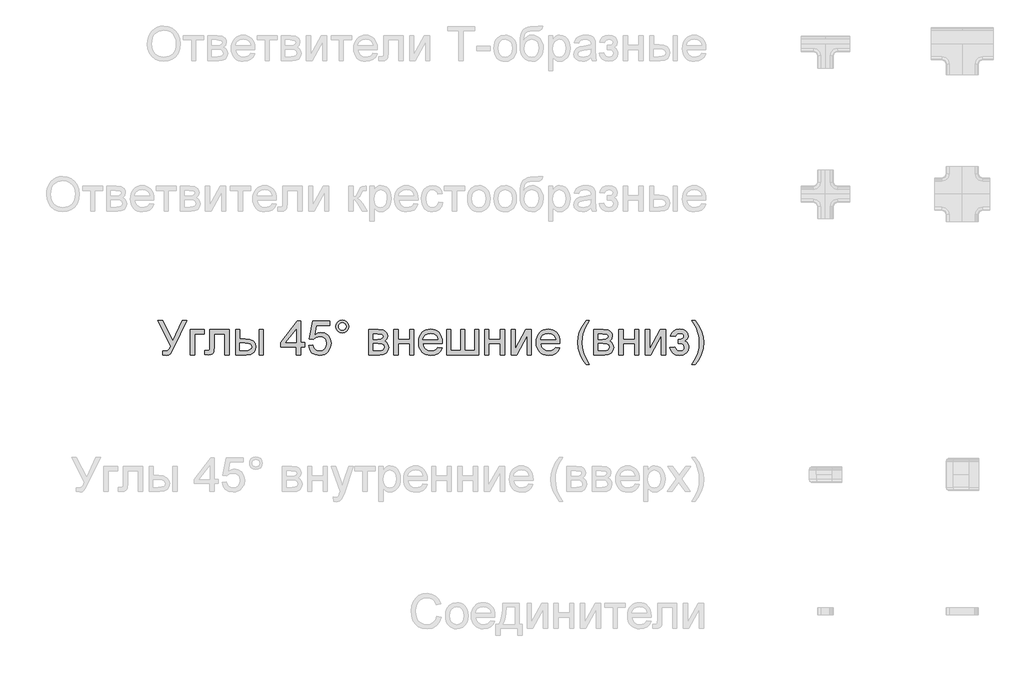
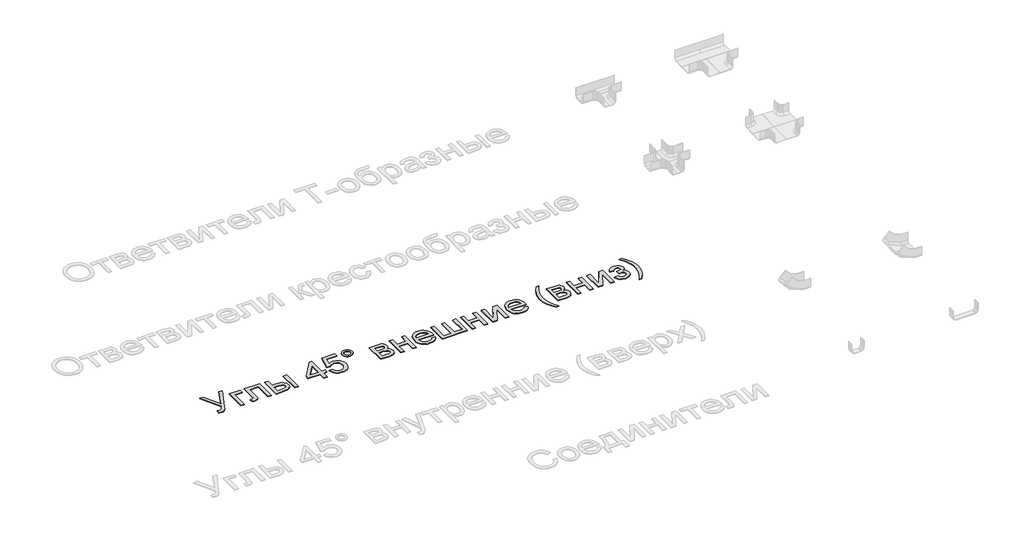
# One storey, part 4 of 11: 1 proxy.
"""IFC4 building model written with IfcOpenShell, lengths in millimetres."""

import ifcopenshell
import ifcopenshell.guid

model = None  # the IFC model being written
_history = None  # IfcOwnerHistory: only IFC2X3 demands one
_inside = {}  # id of a spatial element -> (the spatial element, [elements in it])
_under = {}  # id of a project, library or spatial element -> (it, [spatial elements below it])
_declared = {}  # id of a project -> (the project, [libraries it declares])
_typed = {}  # id of a type object -> (the type object, [elements of that type])
_made_of = {}  # id of a material, layer set ... -> (it, [elements and type objects made of it])


def new_model(schema):
    """Start an empty IFC model of exactly this schema.

    Asked for "IFC4X3", IfcOpenShell would pick the latest addendum, in which some entities
    have other attributes; the version numbers below select the first issue.
    IFC2X3 requires an IfcOwnerHistory on every rooted entity: one is made here for all.
    """
    global model, _history
    if schema == "IFC4X3":
        model = ifcopenshell.file(schema_version=(4, 3, 0, 0))
    else:
        model = ifcopenshell.file(schema=schema)
    _inside.clear()
    _under.clear()
    _declared.clear()
    _typed.clear()
    _made_of.clear()
    _history = None
    if model.schema == "IFC2X3":
        org = make("IfcOrganization", Name="unknown")
        user = make(
            "IfcPersonAndOrganization",
            ThePerson=make("IfcPerson", FamilyName="unknown"),
            TheOrganization=org,
        )
        app = make(
            "IfcApplication",
            ApplicationDeveloper=org,
            Version="unknown",
            ApplicationFullName="unknown",
            ApplicationIdentifier="unknown",
        )
        _history = make(
            "IfcOwnerHistory",
            OwningUser=user,
            OwningApplication=app,
            ChangeAction="ADDED",
            CreationDate=0,
        )
    return model


def make(cls, **values):
    """One entity of the class cls with the attributes given. An attribute that is None is left unset."""
    return model.create_entity(
        cls, **{name: value for name, value in values.items() if value is not None}
    )


def rooted(cls, **values):
    """An entity with a GlobalId (a new one), such as an element, a storey or a relation."""
    return make(cls, GlobalId=ifcopenshell.guid.new(), OwnerHistory=_history, **values)


def si_unit(unit_type, name, prefix=None):
    """IfcSIUnit, for example si_unit("LENGTHUNIT", "METRE", prefix="MILLI")."""
    return make("IfcSIUnit", UnitType=unit_type, Prefix=prefix, Name=name)


def assignment(units):
    """IfcUnitAssignment: the units of a project."""
    return None if units is None else make("IfcUnitAssignment", Units=units)


def point(xyz):
    """IfcCartesianPoint."""
    return None if xyz is None else make("IfcCartesianPoint", Coordinates=xyz)


def direction(xyz):
    """IfcDirection."""
    return None if xyz is None else make("IfcDirection", DirectionRatios=xyz)


def frame(location, z_axis=None, x_axis=None):
    """IfcAxis2Placement3D, a coordinate frame: its origin and axes. An axis left out is left unset."""
    return make(
        "IfcAxis2Placement3D",
        Location=point(location),
        Axis=direction(z_axis),
        RefDirection=direction(x_axis),
    )


def origin():
    """The frame at (0, 0, 0) with its axes left unset."""
    return frame((0.0, 0.0, 0.0))


def origin_with_axes():
    """The frame at (0, 0, 0) with the z axis (0, 0, 1) and the x axis (1, 0, 0) written out."""
    return frame((0.0, 0.0, 0.0), z_axis=(0.0, 0.0, 1.0), x_axis=(1.0, 0.0, 0.0))


def place(relative_to, where):
    """IfcLocalPlacement: puts the frame where relative to a parent placement (None: the world)."""
    return make(
        "IfcLocalPlacement", PlacementRelTo=relative_to, RelativePlacement=where
    )


def context(
    kind, dimensions, precision=None, world=None, true_north=None, identifier=None
):
    """IfcGeometricRepresentationContext, for example the 3D "Model" context."""
    return make(
        "IfcGeometricRepresentationContext",
        ContextIdentifier=identifier,
        ContextType=kind,
        CoordinateSpaceDimension=dimensions,
        Precision=precision,
        WorldCoordinateSystem=world,
        TrueNorth=true_north,
    )


def project(units=None, contexts=None):
    """IfcProject with its units and contexts."""
    return rooted(
        "IfcProject",
        Name="project",
        RepresentationContexts=contexts,
        UnitsInContext=assignment(units),
    )


def spatial(cls, under=None, at=None, **own):
    """A site, building, storey or space (cls), placed at a placement, below another one or the project."""
    s = rooted(cls, ObjectPlacement=at, **own)
    if under is not None:
        _under.setdefault(under.id(), (under, []))[1].append(s)
    return s


def polyline(points):
    """IfcPolyline through the points."""
    return make("IfcPolyline", Points=[point(p) for p in points])


def outline(outer, holes=None, kind="AREA"):
    """IfcArbitraryClosedProfileDef: a profile drawn as a closed curve; with holes, ...WithVoids."""
    if holes is None:
        return make("IfcArbitraryClosedProfileDef", ProfileType=kind, OuterCurve=outer)
    return make(
        "IfcArbitraryProfileDefWithVoids",
        ProfileType=kind,
        OuterCurve=outer,
        InnerCurves=holes,
    )


def extrude(swept, where, along, depth):
    """IfcExtrudedAreaSolid: the profile swept, set in the frame where, extruded along a direction by depth."""
    return make(
        "IfcExtrudedAreaSolid",
        SweptArea=swept,
        Position=where,
        ExtrudedDirection=direction(along),
        Depth=depth,
    )


def shape(context_of_items, identifier, shape_type, items):
    """IfcShapeRepresentation: the items that make up one representation, for example the "Body"."""
    return make(
        "IfcShapeRepresentation",
        ContextOfItems=context_of_items,
        RepresentationIdentifier=identifier,
        RepresentationType=shape_type,
        Items=items,
    )


def made_of(thing, what):
    """Note that an element or type object is made of a material, layer set ...; save() writes the relation."""
    if what is not None:
        _made_of.setdefault(what.id(), (what, []))[1].append(thing)
    return thing


def element(
    cls,
    number,
    at=None,
    inside=None,
    cuts=None,
    type_object=None,
    material=None,
    context=None,
    identifier="Body",
    shape_type=None,
    held_by="IfcProductDefinitionShape",
    body=None,
    shapes=None,
    **own,
):
    """One element of the class cls, such as IfcWall. Its Tag is "e" and its number.

    at: its placement. inside: the storey or other place that contains it. cuts: it is an
    opening in that element (IfcRelVoidsElement). A single representation is given by context,
    identifier, shape_type and body (its items); several are given by shapes. held_by: the class
    of the entity that holds the representations. save() writes the other relations.
    """
    e = rooted(cls, Tag="e%d" % number, ObjectPlacement=at, **own)
    if body is not None:
        shapes = [shape(context, identifier, shape_type, body)]
    if shapes is not None:
        e.Representation = make(held_by, Representations=shapes)
    if inside is not None:
        _inside.setdefault(inside.id(), (inside, []))[1].append(e)
    if cuts is not None:
        rooted(
            "IfcRelVoidsElement", RelatingBuildingElement=cuts, RelatedOpeningElement=e
        )
    if type_object is not None:
        _typed.setdefault(type_object.id(), (type_object, []))[1].append(e)
    return made_of(e, material)


def aggregate(whole, parts):
    """IfcRelAggregates: a whole, such as a stair, and the parts it consists of."""
    return rooted("IfcRelAggregates", RelatingObject=whole, RelatedObjects=parts)


def save(model, path):
    """Write the relations noted so far, then the file.

    IfcRelAggregates (storeys below a building ...), IfcRelContainedInSpatialStructure (elements
    in a storey), IfcRelDefinesByType, IfcRelAssociatesMaterial and IfcRelDeclares: one each for
    every whole, place, type object, material and project.
    """
    for whole, parts in _under.values():
        aggregate(whole, parts)
    for where, things in _inside.values():
        rooted(
            "IfcRelContainedInSpatialStructure",
            RelatedElements=things,
            RelatingStructure=where,
        )
    for kind, things in _typed.values():
        rooted("IfcRelDefinesByType", RelatedObjects=things, RelatingType=kind)
    for what, things in _made_of.values():
        rooted("IfcRelAssociatesMaterial", RelatedObjects=things, RelatingMaterial=what)
    for by, libraries in _declared.values():
        rooted("IfcRelDeclares", RelatingContext=by, RelatedDefinitions=libraries)
    model.write(path)


model = new_model("IFC4")

# Units and contexts
model_context = context("Model", 3, world=origin())
ifc_project = project(units=[si_unit("LENGTHUNIT", "METRE", prefix="MILLI")], contexts=[model_context])

# Site, building, storey
site = spatial("IfcSite", under=ifc_project)
building = spatial("IfcBuilding", under=site)
storey = spatial("IfcBuildingStorey", under=building, Name="Этаж 01", Elevation=0.0)

# Proxy
placement = place(None, origin())
element("IfcBuildingElementProxy", 1, Name="АБН_Маленькая надпись", ObjectType="АБН_Маленькая надпись", at=placement, inside=storey, context=model_context, shape_type="SweptSolid", body=[
    extrude(outline(polyline([(-18595.1476352, 3782.6703326), (-18560.3827867, 3782.6703326), (-18485.273546, 3633.9233793), (-18417.7058862, 3782.6703326), (-18383.247606, 3782.6703326), (-18478.5903564, 3587.0184249), (-18492.9837395, 3556.6375034), (-18504.5260371, 3538.9485108), (-18516.8347555, 3530.4412397), (-18533.527401, 3527.6054827), (-18561.793001, 3531.5295573), (-18561.793001, 3558.9980796), (-18537.0835937, 3558.9980796), (-18527.196765, 3560.7455191), (-18518.7508076, 3565.9878375), (-18510.6420753, 3577.4381646), (-18501.7669221, 3597.8096301), (-18595.1476352, 3782.6703326)])), origin_with_axes(), (0.0, 0.0, 1.0), 5.0),
    extrude(outline(polyline([(-18357.741121, 3715.9610642), (-18255.715181, 3715.9610642), (-18255.715181, 3684.5684673), (-18326.3485241, 3684.5684673), (-18326.3485241, 3531.5295573), (-18357.741121, 3531.5295573), (-18357.741121, 3715.9610642)])), origin_with_axes(), (0.0, 0.0, 1.0), 5.0),
    extrude(outline(polyline([(-18216.4744349, 3715.9610642), (-18075.2077487, 3715.9610642), (-18075.2077487, 3531.7134983), (-18106.6003456, 3531.7134983), (-18106.6003456, 3684.5684673), (-18185.0818379, 3684.5684673), (-18185.0818379, 3596.5833568), (-18187.1971594, 3555.99371), (-18191.1595551, 3546.8043243), (-18198.8160991, 3538.8565403), (-18210.4350388, 3533.361303), (-18226.2846214, 3531.5295573), (-18251.7911064, 3533.1237126), (-18251.7911064, 3562.9221542), (-18237.7502769, 3562.9221542), (-18223.5561633, 3564.8535347), (-18217.8846492, 3570.9849013), (-18216.4744349, 3598.3614531), (-18216.4744349, 3715.9610642)])), origin_with_axes(), (0.0, 0.0, 1.0), 5.0),
    extrude(outline(polyline([(-17855.4595703, 3715.9610642), (-17824.0669733, 3715.9610642), (-17824.0669733, 3531.5295573), (-17855.4595703, 3531.5295573), (-17855.4595703, 3715.9610642)])), origin_with_axes(), (0.0, 0.0, 1.0), 5.0),
    extrude(outline(polyline([(-18028.1188533, 3715.9610642), (-17996.7262564, 3715.9610642), (-17996.7262564, 3649.2517957), (-17957.9147059, 3649.2517957), (-17924.3684665, 3645.3200569), (-17899.5134392, 3633.5248404), (-17884.1313733, 3614.8165081), (-17879.004018, 3590.1454218), (-17883.3036388, 3567.6816275), (-17896.2025012, 3548.7280405), (-17918.5436682, 3535.8291781), (-17951.1702027, 3531.5295573), (-18028.1188533, 3531.5295573), (-18028.1188533, 3715.9610642)]), holes=[polyline([(-17996.7262564, 3562.9221542), (-17964.4752682, 3562.9221542), (-17939.4746209, 3564.569959), (-17922.8432891, 3569.5133733), (-17913.5082834, 3577.9516665), (-17910.3966149, 3590.0841082), (-17912.7035416, 3600.3388188), (-17919.6243216, 3609.3979129), (-17934.4239077, 3615.7438773), (-17960.3672526, 3617.8591988), (-17996.7262564, 3617.8591988), (-17996.7262564, 3562.9221542)])]), origin_with_axes(), (0.0, 0.0, 1.0), 5.0),
    extrude(outline(polyline([(-17584.6984218, 3531.5295573), (-17584.6984218, 3590.3906765), (-17698.4965857, 3590.3906765), (-17698.4965857, 3621.7832734), (-17576.8502726, 3778.746258), (-17553.3058249, 3778.746258), (-17553.3058249, 3621.7832734), (-17521.913228, 3621.7832734), (-17521.913228, 3590.3906765), (-17553.3058249, 3590.3906765), (-17553.3058249, 3531.5295573), (-17584.6984218, 3531.5295573)]), holes=[polyline([(-17584.6984218, 3621.7832734), (-17584.6984218, 3718.7814928), (-17659.8689762, 3621.7832734), (-17584.6984218, 3621.7832734)])]), origin_with_axes(), (0.0, 0.0, 1.0), 5.0),
    extrude(outline(polyline([(-17494.4447057, 3598.2388257), (-17463.0521087, 3602.1629003), (-17457.2886242, 3583.3166123), (-17447.233183, 3569.8199416), (-17432.9317704, 3561.7035451), (-17414.4303717, 3558.9980796), (-17391.9282563, 3562.7612058), (-17375.0669982, 3574.0505846), (-17364.5363761, 3591.5633004), (-17361.0261688, 3613.9964379), (-17364.3141141, 3635.1189958), (-17374.1779501, 3651.2751467), (-17390.6943188, 3661.5298573), (-17413.9398624, 3664.9480942), (-17429.1686441, 3663.5838651), (-17441.5003552, 3659.4911779), (-17459.1280341, 3645.3277211), (-17490.5206311, 3649.2517957), (-17463.0521087, 3778.746258), (-17341.4057957, 3778.746258), (-17341.4057957, 3747.3536611), (-17437.6682511, 3747.3536611), (-17451.0959439, 3678.191846), (-17428.6704706, 3691.8034798), (-17405.1720082, 3696.3406911), (-17375.8410833, 3690.7151623), (-17351.4918937, 3673.8385757), (-17335.0981523, 3648.1174929), (-17329.6335718, 3615.9584752), (-17334.5539935, 3584.5658782), (-17349.3152586, 3557.7104926), (-17362.359741, 3544.5395508), (-17377.5808585, 3535.1317351), (-17394.9786112, 3529.4870458), (-17414.552999, 3527.6054827), (-17445.3861088, 3532.4415981), (-17469.9498962, 3546.9499442), (-17486.7881616, 3569.4443954), (-17494.4447057, 3598.2388257)])), origin_with_axes(), (0.0, 0.0, 1.0), 5.0),
    extrude(outline(polyline([(-17294.3169003, 3739.5668255), (-17290.8603424, 3757.6696854), (-17280.4906686, 3772.8601461), (-17265.2772153, 3783.160842), (-17247.2893186, 3786.5944073), (-17229.0944882, 3783.160842), (-17213.8733707, 3772.8601461), (-17203.5726748, 3757.6696854), (-17200.1391095, 3739.5668255), (-17203.5956674, 3721.4869583), (-17213.9653412, 3706.2428482), (-17229.2094514, 3695.8731744), (-17247.2893186, 3692.4166165), (-17265.2772153, 3695.8501818), (-17280.4906686, 3706.1508777), (-17290.8603424, 3721.3719952), (-17294.3169003, 3739.5668255)]), holes=[polyline([(-17274.6965272, 3739.5055119), (-17272.6808404, 3728.9442329), (-17266.6337802, 3720.0690798), (-17257.7356344, 3714.0450121), (-17247.1666912, 3712.0369896), (-17236.6897186, 3714.0450121), (-17227.8222297, 3720.0690798), (-17221.7751694, 3728.9442329), (-17219.7594826, 3739.5055119), (-17221.7751694, 3750.0667908), (-17227.8222297, 3758.941944), (-17236.6897186, 3764.9660116), (-17247.1666912, 3766.9740342), (-17257.7356344, 3764.9660116), (-17266.6337802, 3758.941944), (-17272.6808404, 3750.0667908), (-17274.6965272, 3739.5055119)])]), origin_with_axes(), (0.0, 0.0, 1.0), 5.0),
    extrude(outline(polyline([(-17054.9483488, 3715.9610642), (-16985.7865337, 3715.9610642), (-16947.8640313, 3711.7610781), (-16936.3217337, 3705.8136525), (-16926.5268756, 3696.3713479), (-16919.8360218, 3684.0702937), (-16917.6057372, 3669.5466191), (-16923.0013398, 3647.7496109), (-16939.2494613, 3632.2065966), (-16927.6305216, 3625.6843554), (-16918.1575602, 3615.1920543), (-16911.8575811, 3601.5574279), (-16909.757588, 3585.6082106), (-16915.0765485, 3561.6805525), (-16927.7224921, 3544.8346228), (-16947.741404, 3534.8558236), (-16975.1792695, 3531.5295573), (-17054.9483488, 3531.5295573), (-17054.9483488, 3715.9610642)]), holes=[polyline([(-17023.5557518, 3645.3277211), (-16992.5310369, 3645.3277211), (-16966.9325814, 3646.9218764), (-16954.4859072, 3653.2984977), (-16948.9983342, 3664.8254669), (-16951.4048955, 3674.1911293), (-16958.6245797, 3680.215197), (-16991.5500183, 3684.5684673), (-17023.5557518, 3684.5684673), (-17023.5557518, 3645.3277211)]), polyline([(-17023.5557518, 3562.9221542), (-16985.0507697, 3562.9221542), (-16964.0661675, 3564.3400327), (-16950.8990578, 3568.5936683), (-16943.8326578, 3576.3268544), (-16941.1501849, 3588.1833845), (-16946.5151307, 3603.2972032), (-16960.4946465, 3612.0957142), (-16988.116453, 3613.9351242), (-17023.5557518, 3613.9351242), (-17023.5557518, 3562.9221542)])]), origin_with_axes(), (0.0, 0.0, 1.0), 5.0),
    extrude(outline(polyline([(-16870.5168418, 3715.9610642), (-16839.1242449, 3715.9610642), (-16839.1242449, 3645.3277211), (-16756.718678, 3645.3277211), (-16756.718678, 3715.9610642), (-16725.3260811, 3715.9610642), (-16725.3260811, 3531.5295573), (-16756.718678, 3531.5295573), (-16756.718678, 3613.9351242), (-16839.1242449, 3613.9351242), (-16839.1242449, 3531.5295573), (-16870.5168418, 3531.5295573), (-16870.5168418, 3715.9610642)])), origin_with_axes(), (0.0, 0.0, 1.0), 5.0),
    extrude(outline(polyline([(-16549.1106054, 3586.4666019), (-16518.3311451, 3582.5425273), (-16529.4212544, 3559.3506332), (-16547.1179113, 3542.0141941), (-16571.0225767, 3531.2076605), (-16600.7367121, 3527.6054827), (-16620.2152973, 3529.1594009), (-16637.5708968, 3533.8211555), (-16652.8035107, 3541.5907466), (-16665.9131389, 3552.4681742), (-16676.4552573, 3566.1507019), (-16683.9853419, 3582.3355937), (-16688.5033926, 3601.0228494), (-16690.0094095, 3622.2124691), (-16688.4880642, 3644.1206083), (-16683.9240282, 3663.430581), (-16676.3173015, 3680.142387), (-16665.6678842, 3694.2560265), (-16652.592745, 3705.4687631), (-16637.7088526, 3713.4778607), (-16621.016207, 3718.2833193), (-16602.5148084, 3719.8851388), (-16584.6093019, 3718.2871514), (-16568.4167459, 3713.4931891), (-16553.9371405, 3705.5032521), (-16541.1704857, 3694.3173401), (-16530.7490785, 3680.2343575), (-16523.3052163, 3663.5532083), (-16518.8388989, 3644.2738925), (-16517.3501265, 3622.3964101), (-16517.5340675, 3613.9351242), (-16658.6168126, 3613.9351242), (-16653.182889, 3590.4366618), (-16640.559938, 3573.1615364), (-16622.3421151, 3562.5389438), (-16600.1235754, 3558.9980796), (-16583.4156014, 3560.6382201), (-16569.3441151, 3565.5586418), (-16557.9091164, 3574.065913), (-16549.1106054, 3586.4666019)]), holes=[polyline([(-16658.6168126, 3645.3277211), (-16548.7427234, 3645.3277211), (-16552.9886948, 3661.9130677), (-16561.3120249, 3673.7772621), (-16579.6141542, 3684.8137219), (-16602.6374357, 3688.4925419), (-16623.7983146, 3685.5571501), (-16641.295702, 3676.7509749), (-16653.4588005, 3663.0243779), (-16658.6168126, 3645.3277211)])]), origin_with_axes(), (0.0, 0.0, 1.0), 5.0),
    extrude(outline(polyline([(-16485.9575296, 3715.9610642), (-16454.5649326, 3715.9610642), (-16454.5649326, 3562.9221542), (-16383.9315896, 3562.9221542), (-16383.9315896, 3715.9610642), (-16352.5389926, 3715.9610642), (-16352.5389926, 3562.9221542), (-16281.9056496, 3562.9221542), (-16281.9056496, 3715.9610642), (-16250.5130526, 3715.9610642), (-16250.5130526, 3531.5295573), (-16485.9575296, 3531.5295573), (-16485.9575296, 3715.9610642)])), origin_with_axes(), (0.0, 0.0, 1.0), 5.0),
    extrude(outline(polyline([(-16207.3482319, 3715.9610642), (-16175.955635, 3715.9610642), (-16175.955635, 3645.3277211), (-16093.550068, 3645.3277211), (-16093.550068, 3715.9610642), (-16062.1574711, 3715.9610642), (-16062.1574711, 3531.5295573), (-16093.550068, 3531.5295573), (-16093.550068, 3613.9351242), (-16175.955635, 3613.9351242), (-16175.955635, 3531.5295573), (-16207.3482319, 3531.5295573), (-16207.3482319, 3715.9610642)])), origin_with_axes(), (0.0, 0.0, 1.0), 5.0),
    extrude(outline(polyline([(-16015.0685757, 3715.9610642), (-15983.6759788, 3715.9610642), (-15983.6759788, 3575.3075147), (-15906.5433872, 3715.9610642), (-15865.9537404, 3715.9610642), (-15865.9537404, 3531.5295573), (-15897.3463373, 3531.5295573), (-15897.3463373, 3671.3247154), (-15973.9884196, 3531.5295573), (-16015.0685757, 3531.5295573), (-16015.0685757, 3715.9610642)])), origin_with_axes(), (0.0, 0.0, 1.0), 5.0),
    extrude(outline(polyline([(-15689.7382647, 3586.4666019), (-15658.9588044, 3582.5425273), (-15670.0489137, 3559.3506332), (-15687.7455705, 3542.0141941), (-15711.650236, 3531.2076605), (-15741.3643713, 3527.6054827), (-15760.8429565, 3529.1594009), (-15778.1985561, 3533.8211555), (-15793.4311699, 3541.5907466), (-15806.5407981, 3552.4681742), (-15817.0829166, 3566.1507019), (-15824.6130011, 3582.3355937), (-15829.1310519, 3601.0228494), (-15830.6370688, 3622.2124691), (-15829.1157235, 3644.1206083), (-15824.5516875, 3663.430581), (-15816.9449608, 3680.142387), (-15806.2955435, 3694.2560265), (-15793.2204042, 3705.4687631), (-15778.3365118, 3713.4778607), (-15761.6438663, 3718.2833193), (-15743.1424676, 3719.8851388), (-15725.2369611, 3718.2871514), (-15709.0444052, 3713.4931891), (-15694.5647998, 3705.5032521), (-15681.7981449, 3694.3173401), (-15671.3767378, 3680.2343575), (-15663.9328755, 3663.5532083), (-15659.4665582, 3644.2738925), (-15657.9777857, 3622.3964101), (-15658.1617267, 3613.9351242), (-15799.2444719, 3613.9351242), (-15793.8105483, 3590.4366618), (-15781.1875973, 3573.1615364), (-15762.9697743, 3562.5389438), (-15740.7512347, 3558.9980796), (-15724.0432607, 3560.6382201), (-15709.9717744, 3565.5586418), (-15698.5367757, 3574.065913), (-15689.7382647, 3586.4666019)]), holes=[polyline([(-15799.2444719, 3645.3277211), (-15689.3703827, 3645.3277211), (-15693.616354, 3661.9130677), (-15701.9396842, 3673.7772621), (-15720.2418134, 3684.8137219), (-15743.265095, 3688.4925419), (-15764.4259739, 3685.5571501), (-15781.9233613, 3676.7509749), (-15794.0864598, 3663.0243779), (-15799.2444719, 3645.3277211)])]), origin_with_axes(), (0.0, 0.0, 1.0), 5.0),
    extrude(outline(polyline([(-15465.6981296, 3460.8962142), (-15490.0243265, 3495.0325977), (-15510.2731647, 3534.5339269), (-15523.9307838, 3577.4841498), (-15528.4833234, 3621.9672144), (-15525.080415, 3660.9780343), (-15514.8716896, 3698.3027284), (-15494.6075231, 3740.578501), (-15465.6981296, 3782.6703326), (-15442.1536819, 3782.6703326), (-15471.5229279, 3732.9449496), (-15489.1812636, 3684.7524083), (-15495.1133608, 3653.3444829), (-15497.0907265, 3621.7832734), (-15493.6571612, 3581.538516), (-15483.3564654, 3541.309087), (-15466.1886389, 3501.0949864), (-15442.1536819, 3460.8962142), (-15465.6981296, 3460.8962142)])), origin_with_axes(), (0.0, 0.0, 1.0), 5.0),
    extrude(outline(polyline([(-15410.761085, 3715.9610642), (-15341.5992699, 3715.9610642), (-15303.6767676, 3711.7610781), (-15292.13447, 3705.8136525), (-15282.3396118, 3696.3713479), (-15275.648758, 3684.0702937), (-15273.4184735, 3669.5466191), (-15278.814076, 3647.7496109), (-15295.0621975, 3632.2065966), (-15283.4432578, 3625.6843554), (-15273.9702964, 3615.1920543), (-15267.6703173, 3601.5574279), (-15265.5703242, 3585.6082106), (-15270.8892847, 3561.6805525), (-15283.5352283, 3544.8346228), (-15303.5541402, 3534.8558236), (-15330.9920057, 3531.5295573), (-15410.761085, 3531.5295573), (-15410.761085, 3715.9610642)]), holes=[polyline([(-15379.3684881, 3645.3277211), (-15348.3437731, 3645.3277211), (-15322.7453176, 3646.9218764), (-15310.2986435, 3653.2984977), (-15304.8110704, 3664.8254669), (-15307.2176318, 3674.1911293), (-15314.4373159, 3680.215197), (-15347.3627545, 3684.5684673), (-15379.3684881, 3684.5684673), (-15379.3684881, 3645.3277211)]), polyline([(-15379.3684881, 3562.9221542), (-15340.8635059, 3562.9221542), (-15319.8789038, 3564.3400327), (-15306.711794, 3568.5936683), (-15299.645394, 3576.3268544), (-15296.9629211, 3588.1833845), (-15302.3278669, 3603.2972032), (-15316.3073827, 3612.0957142), (-15343.9291892, 3613.9351242), (-15379.3684881, 3613.9351242), (-15379.3684881, 3562.9221542)])]), origin_with_axes(), (0.0, 0.0, 1.0), 5.0),
    extrude(outline(polyline([(-15226.3295781, 3715.9610642), (-15194.9369811, 3715.9610642), (-15194.9369811, 3645.3277211), (-15112.5314142, 3645.3277211), (-15112.5314142, 3715.9610642), (-15081.1388173, 3715.9610642), (-15081.1388173, 3531.5295573), (-15112.5314142, 3531.5295573), (-15112.5314142, 3613.9351242), (-15194.9369811, 3613.9351242), (-15194.9369811, 3531.5295573), (-15226.3295781, 3531.5295573), (-15226.3295781, 3715.9610642)])), origin_with_axes(), (0.0, 0.0, 1.0), 5.0),
    extrude(outline(polyline([(-15034.0499219, 3715.9610642), (-15002.657325, 3715.9610642), (-15002.657325, 3575.3075147), (-14925.5247333, 3715.9610642), (-14884.9350865, 3715.9610642), (-14884.9350865, 3531.5295573), (-14916.3276835, 3531.5295573), (-14916.3276835, 3671.3247154), (-14992.9697658, 3531.5295573), (-15034.0499219, 3531.5295573), (-15034.0499219, 3715.9610642)])), origin_with_axes(), (0.0, 0.0, 1.0), 5.0),
    extrude(outline(polyline([(-14794.6813704, 3613.9351242), (-14794.6813704, 3645.3277211), (-14769.9106494, 3646.5539944), (-14757.4026616, 3653.0838998), (-14752.9880776, 3659.2076022), (-14751.5165496, 3666.7261905), (-14753.4862511, 3675.6549931), (-14759.3953557, 3682.5757731), (-14768.4161288, 3687.0133497), (-14779.7208359, 3688.4925419), (-14791.1481704, 3687.0210139), (-14800.7207665, 3682.60643), (-14808.4386242, 3675.2487901), (-14814.3017435, 3664.9480942), (-14849.618415, 3668.8721688), (-14840.2527525, 3691.1903432), (-14826.0126537, 3707.1318963), (-14806.8981183, 3716.6968282), (-14782.9091466, 3719.8851388), (-14756.6668976, 3715.9993852), (-14736.8012698, 3704.3421245), (-14724.293282, 3687.2892612), (-14720.1239527, 3667.2166998), (-14726.0560499, 3647.7189541), (-14743.8523414, 3632.6357923), (-14731.7352282, 3623.9139233), (-14723.0976655, 3613.0767329), (-14717.9243249, 3600.0935641), (-14716.1998781, 3584.9337602), (-14720.576141, 3561.8261724), (-14733.7049297, 3543.516379), (-14754.697196, 3531.5832067), (-14782.6638919, 3527.6054827), (-14810.0174511, 3531.2843026), (-14830.9484038, 3542.3207625), (-14845.4567499, 3560.7148622), (-14853.5424896, 3586.4666019), (-14818.2258181, 3590.3906765), (-14812.9375144, 3577.1162678), (-14804.0623613, 3567.2141108), (-14792.6273626, 3561.0520874), (-14779.6595223, 3558.9980796), (-14767.0289071, 3560.9677811), (-14756.7282112, 3566.8768856), (-14749.8764091, 3575.8516735), (-14747.592475, 3587.0184249), (-14753.2639891, 3603.511801), (-14765.3427813, 3612.3409689), (-14788.5500038, 3614.1190652), (-14794.6813704, 3613.9351242)])), origin_with_axes(), (0.0, 0.0, 1.0), 5.0),
    extrude(outline(polyline([(-14669.1109827, 3460.8962142), (-14692.6554304, 3460.8962142), (-14668.6204734, 3501.0949864), (-14651.4526469, 3541.309087), (-14641.1519511, 3581.538516), (-14637.7183858, 3621.7832734), (-14639.6957515, 3653.1145567), (-14645.6278487, 3684.2005853), (-14663.1022435, 3732.4544403), (-14692.6554304, 3782.6703326), (-14669.1109827, 3782.6703326), (-14640.2015893, 3740.578501), (-14619.9374227, 3698.3027284), (-14609.7286973, 3660.9780343), (-14606.3257889, 3621.9672144), (-14610.9013212, 3577.4841498), (-14624.6279181, 3534.5339269), (-14644.8997489, 3495.0325977), (-14669.1109827, 3460.8962142)])), origin_with_axes(), (0.0, 0.0, 1.0), 5.0),
])

save(model, "model.ifc")
